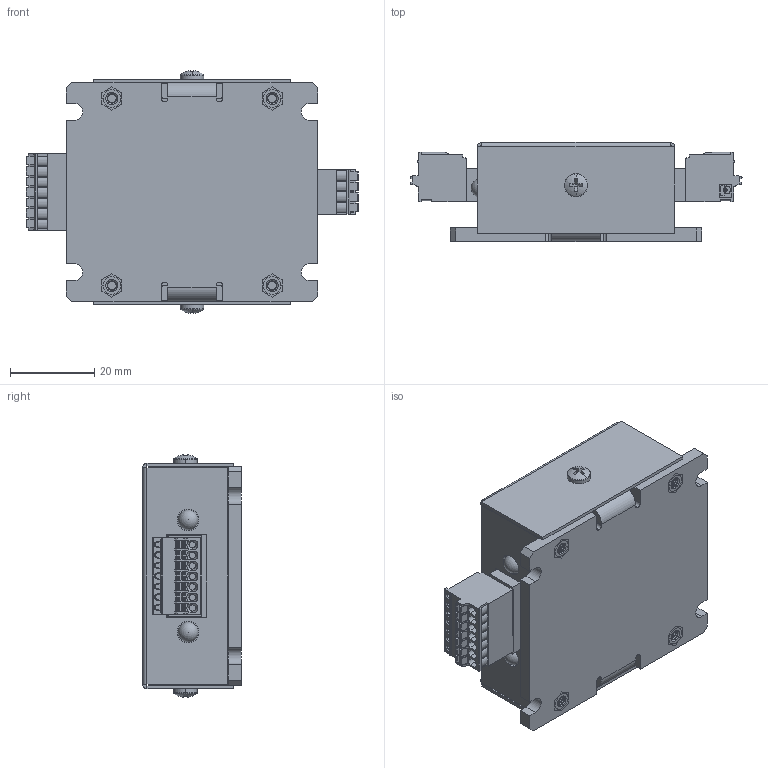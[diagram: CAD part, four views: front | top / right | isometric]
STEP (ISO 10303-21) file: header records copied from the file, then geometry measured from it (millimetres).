
FILE_DESCRIPTION (( 'STEP AP214' ), '1' );
FILE_NAME ('MBC25081TB.STEP', '2009-05-21T21:42:48', ( 'Tim Raines' ), ( 'Anaheim Automation' ), 'SwSTEP 2.0', 'SolidWorks 2009', '' );
FILE_SCHEMA (( 'AUTOMOTIVE_DESIGN' ));
Length unit declared in the file: millimetre
Products named in the file (17): 1881341; Pan Cross Head_AI_CR-PHMS 0.112-40x0.25x0.25-S; Cover, MBC25081; 1881370; AA4110APCB; POT-0019; 1881493; 1881464; CON-929834-01-03; LED-RA Series_LED-0002; LED-RA Series_LED-0005; CAP-0144; Base Plate, MBC25081; MBC25081TB; AA4110A-1PCB; Thru-hole Standoff_PMI_PEM SON-440-10 ZI--S
Assembly tree (24 placements, depth 3):
  MBC25081TB
    AA4110A-1PCB
      CON-929834-01-03
      1881493
      LED-RA Series_LED-0002
      CAP-0144
      POT-0019
      AA4110APCB
      LED-RA Series_LED-0005
      1881464
    1881370
    Pan Cross Head_AI_CR-PHMS 0.112-40x0.25x0.25-S  x6
    Base Plate, MBC25081
      Thru-hole Standoff_PMI_PEM SON-440-10 ZI--S  x4
      Base Plate, MBC25081
    Cover, MBC25081
    1881341
Bounding box: 78.89 x 23.52 x 57.64 mm (x, y, z)
Volume: 26915.5 mm3; surface area: 34261.4 mm2
Topology: 22 solids, 22 shells, 4894 faces, 12641 edges, 8159 vertices
Faces by surface type: plane 2678, bspline 886, cylinder 808, cone 492, torus 16, sphere 14
Entity records: 211463 total; most frequent: CARTESIAN_POINT 68949, ORIENTED_EDGE 22046, DIRECTION 17112, EDGE_CURVE 11023, VECTOR 7720, LINE 7720, VERTEX_POINT 7205, AXIS2_PLACEMENT_3D 4696
